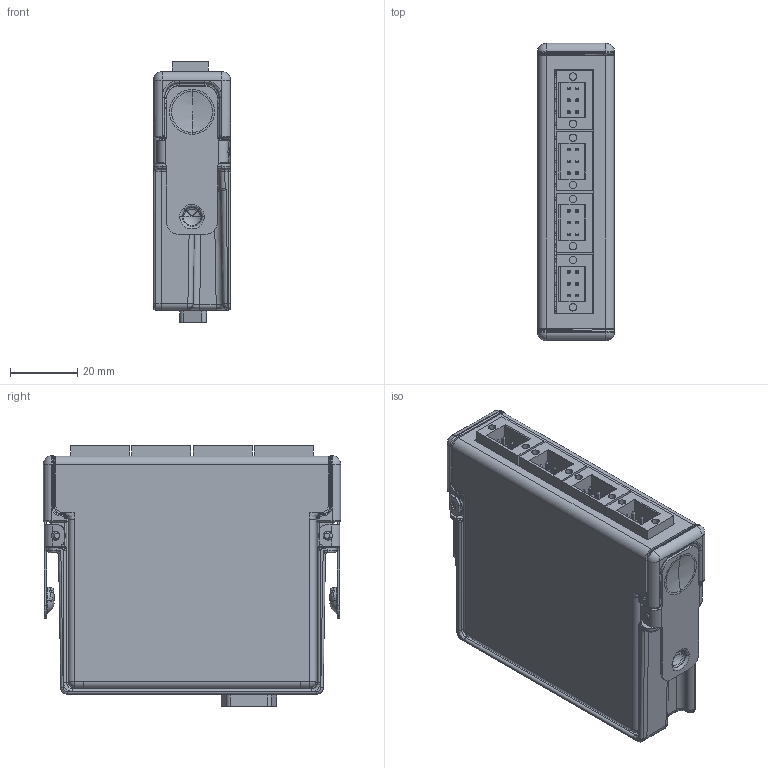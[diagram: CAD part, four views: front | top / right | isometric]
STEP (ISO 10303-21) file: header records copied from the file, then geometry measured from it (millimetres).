
FILE_DESCRIPTION((''),'2;1');
FILE_NAME('CART_CRIO_4X_6POS_WEID_LVL6','2007-01-24T',('chrisj'),(''),'PRO/ENGINEER BY PARAMETRIC TECHNOLOGY CORPORATION, 2006080','PRO/ENGINEER BY PARAMETRIC TECHNOLOGY CORPORATION, 2006080','');
FILE_SCHEMA(('AUTOMOTIVE_DESIGN_CC2 { 1 2 10303 214 -1 1 5 2 }'));
Products named in the file (1): CART_CRIO_4X_6POS_WEID_LVL6
Bounding box: 22.86 x 88.11 x 77.14 mm (x, y, z)
Volume: 44472.3 mm3; surface area: 48970.5 mm2
Topology: 13 solids, 13 shells, 2008 faces, 5095 edges, 3124 vertices
Faces by surface type: plane 874, cylinder 646, bspline 365, torus 56, sphere 39, cone 22, extrusion 6
Entity records: 80098 total; most frequent: CARTESIAN_POINT 35455, ORIENTED_EDGE 10046, DIRECTION 7999, EDGE_CURVE 5023, VERTEX_POINT 3162, AXIS2_PLACEMENT_3D 2679, VECTOR 2641, LINE 2635
